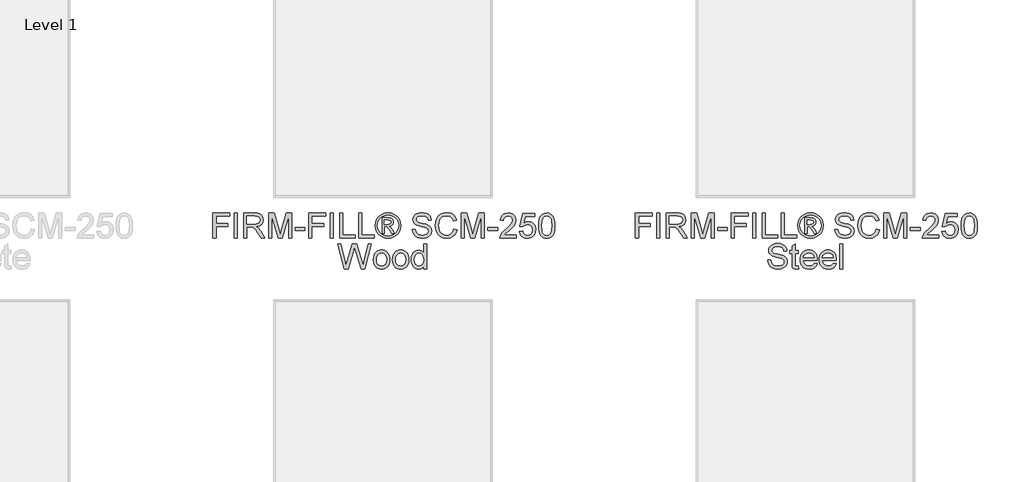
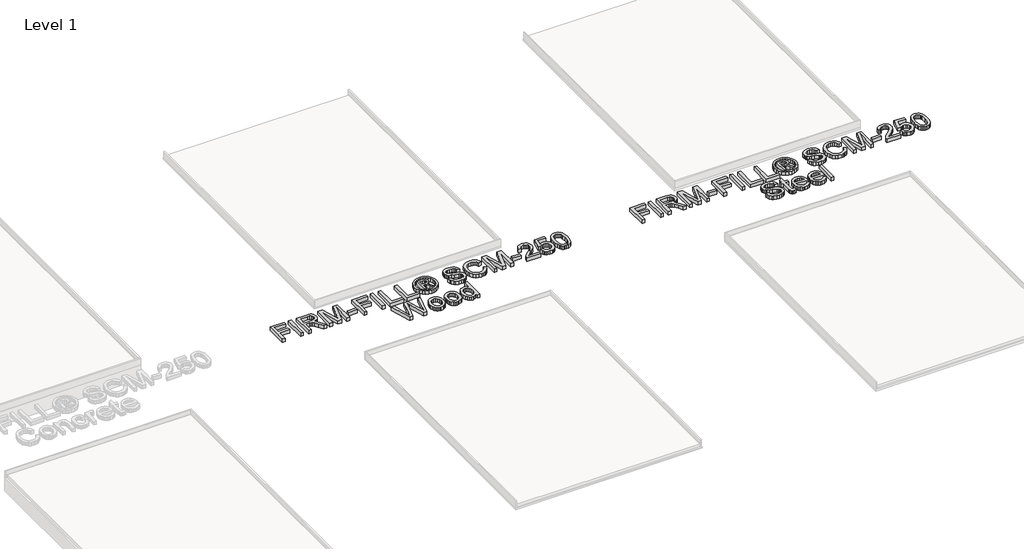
# One storey, part 9 of 10: 2 proxies.
"""IFC4 building model written with IfcOpenShell, lengths in millimetres."""

from ifc_helpers import new_model, si_unit, origin, origin_with_axes, place, context, project, spatial, polyline, outline, extrude, element, save

model = new_model("IFC4")

# Units and contexts
model_context = context("Model", 3, world=origin())
ifc_project = project(units=[si_unit("LENGTHUNIT", "METRE", prefix="MILLI")], contexts=[model_context])

# Site, building, storey
site = spatial("IfcSite", under=ifc_project)
building = spatial("IfcBuilding", under=site)
storey = spatial("IfcBuildingStorey", under=building, Name="Level 1", Elevation=0.0)

# Proxies
placement = place(None, origin())
element("IfcBuildingElementProxy", 1, Name="600mm Arial", ObjectType="600mm Arial", at=placement, inside=storey, context=model_context, shape_type="SweptSolid", body=[
    extrude(outline(polyline([(-312.4048462, -9445.9364307), (-312.4048462, -9145.8256615), (-110.7679231, -9145.8256615), (-110.7679231, -9183.3395076), (-274.891, -9183.3395076), (-274.891, -9272.4348922), (-134.2140769, -9272.4348922), (-134.2140769, -9309.9487384), (-274.891, -9309.9487384), (-274.891, -9445.9364307), (-312.4048462, -9445.9364307)])), origin_with_axes(), (0.0, 0.0, 1.0), 50.8),
    extrude(outline(polyline([(-54.4971539, -9445.9364307), (-54.4971539, -9145.8256615), (-16.9833077, -9145.8256615), (-16.9833077, -9445.9364307), (-54.4971539, -9445.9364307)])), origin_with_axes(), (0.0, 0.0, 1.0), 50.8),
    extrude(outline(polyline([(58.0443846, -9445.9364307), (58.0443846, -9145.8256615), (187.3645769, -9145.8256615), (222.1216682, -9147.849724), (247.4087115, -9153.9219115), (265.890875, -9165.1321038), (280.2333269, -9182.5701807), (289.437774, -9204.1937624), (292.5059231, -9227.9604692), (287.4228702, -9257.5246038), (272.1737115, -9282.0331615), (260.6223594, -9292.0206735), (246.3005144, -9300.0024403), (209.3453461, -9309.9487384), (230.6666923, -9325.9946999), (261.0734231, -9364.6075846), (311.1163077, -9445.9364307), (267.5211154, -9445.9364307), (228.4686154, -9383.7308538), (200.2599615, -9342.5535461), (180.4406346, -9323.1005653), (162.5995769, -9315.9568153), (140.8386154, -9314.6379692), (95.5582307, -9314.6379692), (95.5582307, -9445.9364307), (58.0443846, -9445.9364307)]), holes=[polyline([(95.5582307, -9277.124123), (179.5247692, -9277.124123), (203.6395048, -9275.7961182), (222.3506346, -9271.8121038), (236.4366442, -9264.9064788), (246.6760192, -9254.8136422), (252.9130625, -9242.6051567), (254.9920769, -9229.3525846), (251.0263798, -9211.0535942), (239.1292884, -9196.3081615), (218.6596971, -9186.5816711), (188.9765, -9183.3395076), (95.5582307, -9183.3395076), (95.5582307, -9277.124123)])]), origin_with_axes(), (0.0, 0.0, 1.0), 50.8),
    extrude(outline(polyline([(358.1551538, -9445.9364307), (358.1551538, -9145.8256615), (422.7053461, -9145.8256615), (484.1049615, -9357.3539307), (496.4874615, -9401.5352769), (509.8957307, -9353.6904692), (570.2695769, -9145.8256615), (634.8197692, -9145.8256615), (634.8197692, -9445.9364307), (597.3059231, -9445.9364307), (597.3059231, -9183.3395076), (521.9118846, -9445.9364307), (471.0630384, -9445.9364307), (395.669, -9183.3395076), (395.669, -9445.9364307), (358.1551538, -9445.9364307)])), origin_with_axes(), (0.0, 0.0, 1.0), 50.8),
    extrude(outline(polyline([(677.0228461, -9356.8410461), (677.0228461, -9319.3271999), (794.2536154, -9319.3271999), (794.2536154, -9356.8410461), (677.0228461, -9356.8410461)])), origin_with_axes(), (0.0, 0.0, 1.0), 50.8),
    extrude(outline(polyline([(841.1459231, -9445.9364307), (841.1459231, -9145.8256615), (1042.7828461, -9145.8256615), (1042.7828461, -9183.3395076), (878.6597692, -9183.3395076), (878.6597692, -9272.4348922), (1019.3366923, -9272.4348922), (1019.3366923, -9309.9487384), (878.6597692, -9309.9487384), (878.6597692, -9445.9364307), (841.1459231, -9445.9364307)])), origin_with_axes(), (0.0, 0.0, 1.0), 50.8),
    extrude(outline(polyline([(1099.0536154, -9445.9364307), (1099.0536154, -9145.8256615), (1136.5674615, -9145.8256615), (1136.5674615, -9445.9364307), (1099.0536154, -9445.9364307)])), origin_with_axes(), (0.0, 0.0, 1.0), 50.8),
    extrude(outline(polyline([(1211.5951538, -9445.9364307), (1211.5951538, -9145.8256615), (1249.109, -9145.8256615), (1249.109, -9408.4225846), (1399.1643846, -9408.4225846), (1399.1643846, -9445.9364307), (1211.5951538, -9445.9364307)])), origin_with_axes(), (0.0, 0.0, 1.0), 50.8),
    extrude(outline(polyline([(1441.3674615, -9445.9364307), (1441.3674615, -9145.8256615), (1478.8813077, -9145.8256615), (1478.8813077, -9408.4225846), (1628.9366923, -9408.4225846), (1628.9366923, -9445.9364307), (1441.3674615, -9445.9364307)])), origin_with_axes(), (0.0, 0.0, 1.0), 50.8),
    extrude(outline(polyline([(1722.7213077, -9389.6656615), (1722.7213077, -9202.0964307), (1783.3149615, -9202.0964307), (1810.0948654, -9203.3878009), (1828.3022692, -9207.2619115), (1840.8038317, -9214.3507096), (1850.4662115, -9225.2861422), (1856.6483029, -9238.5570317), (1858.709, -9252.6521999), (1855.1554423, -9271.7754692), (1844.4947692, -9288.2610461), (1827.9725577, -9300.0940269), (1806.8343846, -9305.2595076), (1821.4882307, -9315.224123), (1847.0591923, -9352.6646999), (1868.0874615, -9389.6656615), (1836.4351538, -9389.6656615), (1819.9495769, -9359.9183538), (1792.3270769, -9316.8360461), (1782.2342404, -9311.414123), (1768.3680384, -9309.9487384), (1750.8566923, -9309.9487384), (1750.8566923, -9389.6656615), (1722.7213077, -9389.6656615)]), holes=[polyline([(1750.8566923, -9281.8133538), (1786.4655384, -9281.8133538), (1807.9151057, -9280.0274163), (1821.2684231, -9274.6696038), (1828.2473173, -9266.3627047), (1830.5736154, -9255.7295076), (1826.1041923, -9242.1014307), (1813.6850577, -9233.1625846), (1784.1941923, -9230.2318153), (1750.8566923, -9230.2318153), (1750.8566923, -9281.8133538)])]), origin_with_axes(), (0.0, 0.0, 1.0), 50.8),
    extrude(outline(polyline([(1793.1330384, -9141.1364307), (1831.6543365, -9146.1370557), (1869.2597692, -9161.1389307), (1902.2950336, -9185.445998), (1927.1058269, -9218.3621999), (1942.6297452, -9256.3706134), (1947.8043846, -9295.9543153), (1942.7030144, -9335.1899884), (1927.3989038, -9372.8870076), (1902.8903461, -9405.6841471), (1870.1756346, -9430.2201807), (1832.5060913, -9445.5242913), (1793.1330384, -9450.6256615), (1753.8149375, -9445.5242913), (1716.1637115, -9430.2201807), (1683.421524, -9405.6841471), (1658.8305384, -9372.8870076), (1643.444, -9335.1899884), (1638.3151538, -9295.9543153), (1643.5172692, -9256.3706134), (1659.1236154, -9218.3621999), (1684.0168365, -9185.445998), (1717.0795769, -9161.1389307), (1754.6666923, -9146.1370557), (1793.1330384, -9141.1364307)]), holes=[polyline([(1793.1330384, -9169.2718153), (1761.6089519, -9173.3657336), (1730.9274615, -9185.6474884), (1703.9552259, -9205.5492432), (1683.5589038, -9232.5031615), (1670.7276298, -9263.6059499), (1666.4505384, -9295.9543153), (1670.6452019, -9328.0920317), (1683.2291923, -9358.8559499), (1703.3599134, -9385.6083778), (1730.1947692, -9405.711623), (1761.0227981, -9418.2956134), (1793.1330384, -9422.4902769), (1825.2890721, -9418.2956134), (1856.1079423, -9405.711623), (1882.8970048, -9385.6083778), (1902.9636154, -9358.8559499), (1915.4926538, -9328.0920317), (1919.669, -9295.9543153), (1915.4193846, -9263.6059499), (1902.6705384, -9232.5031615), (1882.3291682, -9205.5492432), (1855.3019807, -9185.6474884), (1824.5746971, -9173.3657336), (1793.1330384, -9169.2718153)])]), origin_with_axes(), (0.0, 0.0, 1.0), 50.8),
    extrude(outline(polyline([(2083.7920769, -9342.7733538), (2121.3059231, -9342.7733538), (2125.6104904, -9363.590974), (2133.3953461, -9380.3238346), (2145.5397211, -9393.6038826), (2162.9228461, -9404.0630653), (2184.1709231, -9410.8496278), (2207.9101538, -9413.1118153), (2228.8102019, -9411.3991471), (2247.1091923, -9406.2611422), (2261.9370529, -9398.1282576), (2272.4237115, -9387.4309499), (2278.6607548, -9375.1491951), (2280.7397692, -9362.2629692), (2279.1827981, -9349.7064547), (2274.5118846, -9338.8534499), (2265.0235192, -9329.5940509), (2249.0141923, -9321.8183538), (2194.3919807, -9307.4942192), (2158.5358509, -9298.0150124), (2135.5934231, -9288.9937384), (2116.9189279, -9276.3731134), (2103.6846731, -9261.0781615), (2095.7990721, -9243.4385942), (2093.1705384, -9223.784123), (2096.4218606, -9201.8125124), (2106.1758269, -9181.3246038), (2122.1759952, -9163.9597961), (2144.1659231, -9151.3574884), (2170.5611634, -9143.6916951), (2199.7772692, -9141.1364307), (2231.4295769, -9143.8107576), (2259.1253461, -9151.8337384), (2281.8754423, -9165.0405172), (2298.6907307, -9183.2662384), (2309.3330865, -9205.3752288), (2313.5643846, -9230.2318153), (2276.0505384, -9230.2318153), (2269.1632307, -9207.8480653), (2254.8024615, -9191.6921999), (2232.3637596, -9181.9107576), (2201.2426538, -9178.6502769), (2169.3888557, -9181.874123), (2147.5363077, -9191.5456615), (2134.8973654, -9205.7782096), (2130.6843846, -9222.6850846), (2133.6701057, -9237.1008057), (2142.6272692, -9248.6956615), (2163.8020769, -9259.0632576), (2203.8803461, -9269.6506615), (2245.2408269, -9279.7068634), (2270.2622692, -9288.4808538), (2291.6477259, -9302.0906134), (2306.5671731, -9318.8875846), (2315.3320048, -9338.6885942), (2318.2536154, -9361.3104692), (2314.8923894, -9384.4360701), (2304.8087115, -9406.187873), (2288.4147211, -9424.9081615), (2266.1225577, -9438.9392192), (2239.3151779, -9447.7040509), (2209.3755384, -9450.6256615), (2172.6218606, -9447.4750846), (2142.3708269, -9438.0233538), (2118.2744086, -9422.2338346), (2099.9845769, -9400.0698922), (2088.2431827, -9373.0701807), (2083.7920769, -9342.7733538)])), origin_with_axes(), (0.0, 0.0, 1.0), 50.8),
    extrude(outline(polyline([(2585.5397692, -9339.2564307), (2623.0536154, -9348.9279692), (2615.6305264, -9372.2573502), (2605.7437596, -9392.642224), (2593.3933149, -9410.0825906), (2578.5791923, -9424.5784499), (2561.6356827, -9435.974105), (2542.8970769, -9444.1138586), (2522.363375, -9448.9977108), (2500.0345769, -9450.6256615), (2456.5218125, -9445.6983057), (2421.9662115, -9430.9162384), (2395.4793846, -9406.7923442), (2376.1729423, -9373.8395076), (2364.3857548, -9335.0984019), (2360.4566923, -9293.6096999), (2364.8986394, -9249.8496519), (2378.2244807, -9212.0610461), (2399.7381586, -9181.4436663), (2428.7436154, -9159.1972961), (2463.1435192, -9145.6516471), (2500.8405384, -9141.1364307), (2541.9720529, -9146.9796519), (2559.8657728, -9154.2836783), (2575.9781346, -9164.5093153), (2590.0435372, -9177.3863826), (2601.7963798, -9192.6446999), (2618.3643846, -9230.3050846), (2580.8505384, -9239.2439307), (2567.84525, -9211.8870317), (2550.0774615, -9193.1209499), (2527.3273654, -9182.2679451), (2499.3751538, -9178.6502769), (2467.1550096, -9182.6617672), (2440.6865, -9194.6962384), (2420.6015721, -9213.4897961), (2407.5321731, -9237.7785461), (2400.3609471, -9265.2361903), (2397.9705384, -9293.5364307), (2400.8005625, -9328.1927769), (2409.2906346, -9358.1598922), (2423.7613077, -9382.2929451), (2444.5331346, -9399.4471038), (2469.4355144, -9409.6956374), (2496.2978461, -9413.1118153), (2527.6112836, -9408.4592192), (2553.7042884, -9394.5014307), (2573.4045529, -9371.3849884), (2585.5397692, -9339.2564307)])), origin_with_axes(), (0.0, 0.0, 1.0), 50.8),
    extrude(outline(polyline([(2674.6351538, -9445.9364307), (2674.6351538, -9145.8256615), (2739.1853461, -9145.8256615), (2800.5849615, -9357.3539307), (2812.9674615, -9401.5352769), (2826.3757307, -9353.6904692), (2886.7495769, -9145.8256615), (2951.2997692, -9145.8256615), (2951.2997692, -9445.9364307), (2913.7859231, -9445.9364307), (2913.7859231, -9183.3395076), (2838.3918846, -9445.9364307), (2787.5430384, -9445.9364307), (2712.149, -9183.3395076), (2712.149, -9445.9364307), (2674.6351538, -9445.9364307)])), origin_with_axes(), (0.0, 0.0, 1.0), 50.8),
    extrude(outline(polyline([(2993.5028461, -9356.8410461), (2993.5028461, -9319.3271999), (3110.7336154, -9319.3271999), (3110.7336154, -9356.8410461), (2993.5028461, -9356.8410461)])), origin_with_axes(), (0.0, 0.0, 1.0), 50.8),
    extrude(outline(polyline([(3335.8166923, -9408.4225846), (3335.8166923, -9445.9364307), (3138.869, -9445.9364307), (3142.8988077, -9420.0723922), (3152.1490481, -9399.8592432), (3165.6855384, -9380.2505653), (3185.2667404, -9359.7260221), (3212.6511154, -9336.7652769), (3253.1323654, -9300.8084019), (3277.4211154, -9274.266623), (3289.5654904, -9252.7254692), (3293.6136154, -9231.7704692), (3289.7944567, -9212.9860701), (3278.3369807, -9197.3705653), (3260.7248894, -9186.8472721), (3238.4418846, -9183.3395076), (3215.041524, -9186.7648442), (3196.8615961, -9197.0408538), (3185.1293606, -9213.3615749), (3181.0720769, -9234.9210461), (3143.5582307, -9230.2318153), (3152.652774, -9193.9452288), (3161.1634531, -9179.4699764), (3172.3164038, -9167.4400846), (3185.8551839, -9157.9837745), (3201.5233509, -9151.2292672), (3239.2478461, -9145.8256615), (3259.353381, -9147.3276807), (3277.2471009, -9151.8337384), (3292.929006, -9159.3438346), (3306.3990961, -9169.8579692), (3317.217756, -9182.5976567), (3324.9453702, -9196.7844115), (3329.5819387, -9212.4182336), (3331.1274615, -9229.499123), (3329.4605865, -9247.4409259), (3324.4599615, -9265.0713346), (3315.5852259, -9283.0039788), (3302.2960192, -9301.8524884), (3281.1120529, -9324.3553009), (3248.5530384, -9353.2508538), (3205.3974615, -9389.3359499), (3188.4722692, -9408.4225846), (3335.8166923, -9408.4225846)])), origin_with_axes(), (0.0, 0.0, 1.0), 50.8),
    extrude(outline(polyline([(3373.3305384, -9366.2195076), (3410.8443846, -9361.5302769), (3417.7316923, -9384.0514067), (3429.7478461, -9400.1797961), (3446.8378942, -9409.8788105), (3468.9468846, -9413.1118153), (3495.8366923, -9408.6149163), (3515.9857307, -9395.1242192), (3528.5697211, -9374.1966951), (3532.7643846, -9347.3893153), (3528.8353221, -9322.1480653), (3517.0481346, -9302.841623), (3497.3112356, -9290.5873442), (3469.5330384, -9286.5025846), (3451.3347932, -9288.1328249), (3436.5985192, -9293.0235461), (3415.5336154, -9309.9487384), (3378.0197692, -9305.2595076), (3410.8443846, -9150.5148922), (3556.2105384, -9150.5148922), (3556.2105384, -9188.0287384), (3441.1778461, -9188.0287384), (3425.1318846, -9270.6764307), (3451.9301057, -9254.4106615), (3480.0105384, -9248.9887384), (3498.2797632, -9250.6693514), (3515.0607067, -9255.7111903), (3530.353369, -9264.1142552), (3544.15775, -9275.8785461), (3555.5854603, -9290.2851086), (3563.7481106, -9306.6149884), (3568.6457007, -9324.8681855), (3570.2782307, -9345.0446999), (3564.398375, -9382.5585461), (3557.0485553, -9399.282248), (3546.7588077, -9414.6504692), (3531.1707788, -9430.3896158), (3512.9816923, -9441.6318634), (3492.1915481, -9448.377212), (3468.8003461, -9450.6256615), (3431.9550817, -9444.8465509), (3416.3418666, -9437.6226627), (3402.6015961, -9427.5092192), (3391.1693065, -9415.0099463), (3382.4800336, -9400.6285701), (3373.3305384, -9366.2195076)])), origin_with_axes(), (0.0, 0.0, 1.0), 50.8),
    extrude(outline(polyline([(3603.1028461, -9298.2989307), (3605.8596009, -9250.2617913), (3614.1298654, -9211.9511422), (3627.8312115, -9182.7808297), (3646.8812115, -9162.1646999), (3671.4172452, -9149.9104211), (3701.5766923, -9145.8256615), (3724.6931346, -9148.2435461), (3745.3916923, -9155.4971999), (3762.7015481, -9167.3027047), (3775.6518846, -9183.3761422), (3785.4333269, -9203.5801326), (3793.2365, -9227.7772961), (3798.3470288, -9258.5045797), (3800.0505384, -9298.2989307), (3797.3212596, -9346.0613105), (3789.1334231, -9384.280373), (3775.5145048, -9413.4781615), (3756.4919807, -9434.1767192), (3731.9009952, -9446.5134259), (3701.5766923, -9450.6256615), (3680.9147692, -9448.839724), (3662.5974615, -9443.4819115), (3646.6247692, -9434.552224), (3632.9966923, -9422.0506615), (3619.9181346, -9399.4516831), (3610.5763077, -9371.2934019), (3604.9712115, -9337.5758177), (3603.1028461, -9298.2989307)]), holes=[polyline([(3640.6166923, -9298.2256615), (3645.0128461, -9357.2348682), (3650.5080384, -9377.4182516), (3658.2013077, -9391.3874884), (3677.8374615, -9407.6807336), (3701.5766923, -9413.1118153), (3725.3159231, -9407.6624163), (3744.9520769, -9391.3142192), (3752.6453461, -9377.3220858), (3758.1405384, -9357.1432817), (3762.5366923, -9298.2256615), (3758.2870769, -9240.5444596), (3752.9750577, -9220.4274764), (3745.5382307, -9206.1262384), (3725.9387115, -9189.0361903), (3701.1370769, -9183.3395076), (3677.6542884, -9188.3584499), (3658.7874615, -9203.4152769), (3650.83775, -9218.9849884), (3645.1593846, -9239.976623), (3640.6166923, -9298.2256615)])]), origin_with_axes(), (0.0, 0.0, 1.0), 50.8),
    extrude(outline(polyline([(1267.6461154, -9816.3856615), (1185.8043846, -9516.2748922), (1224.4905384, -9516.2748922), (1271.969, -9713.5156615), (1286.6228461, -9774.4023922), (1302.3024615, -9720.5495076), (1361.7970769, -9516.2748922), (1417.5549615, -9516.2748922), (1460.7838077, -9664.3520076), (1479.3026057, -9719.3039307), (1492.949, -9774.4023922), (1507.1632307, -9715.274123), (1555.0813077, -9516.2748922), (1593.7674615, -9516.2748922), (1511.8524615, -9816.3856615), (1471.7741923, -9816.3856615), (1399.8238077, -9584.8548922), (1389.7859231, -9552.5431615), (1378.5024615, -9591.449123), (1312.9265, -9816.3856615), (1267.6461154, -9816.3856615)])), origin_with_axes(), (0.0, 0.0, 1.0), 50.8),
    extrude(outline(polyline([(1617.2136154, -9706.1887384), (1619.2422572, -9677.6457937), (1625.3281827, -9653.0502288), (1635.4713918, -9632.4020437), (1649.6718846, -9615.7012384), (1663.9685432, -9605.0268273), (1679.7489038, -9597.402248), (1697.0129663, -9592.8275004), (1715.7607307, -9591.3025846), (1736.4569988, -9593.1595016), (1755.1704182, -9598.7302528), (1771.9009892, -9608.0148382), (1786.6487115, -9621.0132576), (1798.6854723, -9637.2858959), (1807.2831586, -9656.3931374), (1812.4417704, -9678.3349824), (1814.1613077, -9703.1114307), (1811.1206346, -9741.0099403), (1801.9986154, -9769.8596999), (1787.0608509, -9791.4649644), (1766.5729423, -9807.6299884), (1742.238399, -9817.7136663), (1715.7607307, -9821.0748922), (1694.7622271, -9819.2248442), (1675.8747932, -9813.6746999), (1659.0984291, -9804.4244596), (1644.4331346, -9791.474123), (1632.5245949, -9775.043498), (1624.0184952, -9755.3523922), (1618.9148353, -9732.4008057), (1617.2136154, -9706.1887384)]), holes=[polyline([(1654.7274615, -9706.1154692), (1659.0686634, -9740.066599), (1672.0922692, -9764.2546038), (1691.6917884, -9778.7344355), (1715.7607307, -9783.5610461), (1739.7197692, -9778.7069596), (1759.2826538, -9764.1446999), (1772.3062596, -9739.6361422), (1776.6474615, -9704.9431615), (1772.2787836, -9671.9811663), (1759.17275, -9648.122873), (1739.5823894, -9633.6430413), (1715.7607307, -9628.8164307), (1691.6917884, -9633.624724), (1672.0922692, -9648.0496038), (1659.0686634, -9672.1826567), (1654.7274615, -9706.1154692)])]), origin_with_axes(), (0.0, 0.0, 1.0), 50.8),
    extrude(outline(polyline([(1846.9859231, -9706.1887384), (1849.0145649, -9677.6457937), (1855.1004904, -9653.0502288), (1865.2436995, -9632.4020437), (1879.4441923, -9615.7012384), (1893.7408509, -9605.0268273), (1909.5212115, -9597.402248), (1926.785274, -9592.8275004), (1945.5330384, -9591.3025846), (1966.2293065, -9593.1595016), (1984.9427259, -9598.7302528), (2001.6732969, -9608.0148382), (2016.4210192, -9621.0132576), (2028.45778, -9637.2858959), (2037.0554663, -9656.3931374), (2042.2140781, -9678.3349824), (2043.9336154, -9703.1114307), (2040.8929423, -9741.0099403), (2031.7709231, -9769.8596999), (2016.8331586, -9791.4649644), (1996.34525, -9807.6299884), (1972.0107067, -9817.7136663), (1945.5330384, -9821.0748922), (1924.5345348, -9819.2248442), (1905.6471009, -9813.6746999), (1888.8707368, -9804.4244596), (1874.2054423, -9791.474123), (1862.2969026, -9775.043498), (1853.7908029, -9755.3523922), (1848.687143, -9732.4008057), (1846.9859231, -9706.1887384)]), holes=[polyline([(1884.4997692, -9706.1154692), (1888.8409711, -9740.066599), (1901.8645769, -9764.2546038), (1921.4640961, -9778.7344355), (1945.5330384, -9783.5610461), (1969.4920769, -9778.7069596), (1989.0549615, -9764.1446999), (2002.0785673, -9739.6361422), (2006.4197692, -9704.9431615), (2002.0510913, -9671.9811663), (1988.9450577, -9648.122873), (1969.3546971, -9633.6430413), (1945.5330384, -9628.8164307), (1921.4640961, -9633.624724), (1901.8645769, -9648.0496038), (1888.8409711, -9672.1826567), (1884.4997692, -9706.1154692)])]), origin_with_axes(), (0.0, 0.0, 1.0), 50.8),
    extrude(outline(polyline([(2222.1243846, -9816.3856615), (2222.1243846, -9780.996623), (2210.9004543, -9798.5308658), (2197.3044327, -9811.0553249), (2181.3363197, -9818.5700004), (2162.9961154, -9821.0748922), (2138.744, -9817.4480653), (2116.5434231, -9806.5675846), (2097.7498654, -9789.1936182), (2083.7188077, -9766.0863346), (2074.9814519, -9738.1799163), (2072.069, -9706.4085461), (2074.7524856, -9675.030998), (2082.8029423, -9646.694123), (2096.2112115, -9623.0098442), (2114.9681346, -9605.5900846), (2137.6541202, -9594.8744596), (2162.8495769, -9591.3025846), (2181.2035192, -9593.857849), (2197.4326538, -9601.5236422), (2211.1889519, -9613.2741951), (2222.1243846, -9628.0837384), (2222.1243846, -9516.2748922), (2259.6382307, -9516.2748922), (2259.6382307, -9816.3856615), (2222.1243846, -9816.3856615)]), holes=[polyline([(2109.5828461, -9706.2620076), (2113.8141442, -9740.1948201), (2126.5080384, -9764.327873), (2144.9535673, -9778.7527528), (2166.4397692, -9783.5610461), (2187.9168125, -9778.9725605), (2205.89525, -9765.2071038), (2218.0671009, -9742.0082336), (2222.1243846, -9709.1195076), (2217.9938317, -9673.1626326), (2205.6021731, -9648.2327769), (2187.1658029, -9633.6705172), (2164.9011154, -9628.8164307), (2143.1951057, -9633.4781855), (2125.409, -9647.4634499), (2113.5393846, -9671.486599), (2109.5828461, -9706.2620076)])]), origin_with_axes(), (0.0, 0.0, 1.0), 50.8),
])
element("IfcBuildingElementProxy", 2, Name="600mm Arial", ObjectType="600mm Arial", at=placement, inside=storey, context=model_context, shape_type="SweptSolid", body=[
    extrude(outline(polyline([(4767.5951538, -9445.9364307), (4767.5951538, -9145.8256615), (4969.2320769, -9145.8256615), (4969.2320769, -9183.3395076), (4805.109, -9183.3395076), (4805.109, -9272.4348922), (4945.7859231, -9272.4348922), (4945.7859231, -9309.9487384), (4805.109, -9309.9487384), (4805.109, -9445.9364307), (4767.5951538, -9445.9364307)])), origin_with_axes(), (0.0, 0.0, 1.0), 50.8),
    extrude(outline(polyline([(5025.5028461, -9445.9364307), (5025.5028461, -9145.8256615), (5063.0166923, -9145.8256615), (5063.0166923, -9445.9364307), (5025.5028461, -9445.9364307)])), origin_with_axes(), (0.0, 0.0, 1.0), 50.8),
    extrude(outline(polyline([(5138.0443846, -9445.9364307), (5138.0443846, -9145.8256615), (5267.3645769, -9145.8256615), (5302.1216682, -9147.849724), (5327.4087115, -9153.9219115), (5345.890875, -9165.1321038), (5360.2333269, -9182.5701807), (5369.437774, -9204.1937624), (5372.5059231, -9227.9604692), (5367.4228702, -9257.5246038), (5352.1737115, -9282.0331615), (5340.6223594, -9292.0206735), (5326.3005144, -9300.0024403), (5289.3453461, -9309.9487384), (5310.6666923, -9325.9946999), (5341.0734231, -9364.6075846), (5391.1163077, -9445.9364307), (5347.5211154, -9445.9364307), (5308.4686154, -9383.7308538), (5280.2599615, -9342.5535461), (5260.4406346, -9323.1005653), (5242.5995769, -9315.9568153), (5220.8386154, -9314.6379692), (5175.5582307, -9314.6379692), (5175.5582307, -9445.9364307), (5138.0443846, -9445.9364307)]), holes=[polyline([(5175.5582307, -9277.124123), (5259.5247692, -9277.124123), (5283.6395048, -9275.7961182), (5302.3506346, -9271.8121038), (5316.4366442, -9264.9064788), (5326.6760192, -9254.8136422), (5332.9130625, -9242.6051567), (5334.9920769, -9229.3525846), (5331.0263798, -9211.0535942), (5319.1292884, -9196.3081615), (5298.6596971, -9186.5816711), (5268.9765, -9183.3395076), (5175.5582307, -9183.3395076), (5175.5582307, -9277.124123)])]), origin_with_axes(), (0.0, 0.0, 1.0), 50.8),
    extrude(outline(polyline([(5438.1551538, -9445.9364307), (5438.1551538, -9145.8256615), (5502.7053461, -9145.8256615), (5564.1049615, -9357.3539307), (5576.4874615, -9401.5352769), (5589.8957307, -9353.6904692), (5650.2695769, -9145.8256615), (5714.8197692, -9145.8256615), (5714.8197692, -9445.9364307), (5677.3059231, -9445.9364307), (5677.3059231, -9183.3395076), (5601.9118846, -9445.9364307), (5551.0630384, -9445.9364307), (5475.669, -9183.3395076), (5475.669, -9445.9364307), (5438.1551538, -9445.9364307)])), origin_with_axes(), (0.0, 0.0, 1.0), 50.8),
    extrude(outline(polyline([(5757.0228461, -9356.8410461), (5757.0228461, -9319.3271999), (5874.2536154, -9319.3271999), (5874.2536154, -9356.8410461), (5757.0228461, -9356.8410461)])), origin_with_axes(), (0.0, 0.0, 1.0), 50.8),
    extrude(outline(polyline([(5921.1459231, -9445.9364307), (5921.1459231, -9145.8256615), (6122.7828461, -9145.8256615), (6122.7828461, -9183.3395076), (5958.6597692, -9183.3395076), (5958.6597692, -9272.4348922), (6099.3366923, -9272.4348922), (6099.3366923, -9309.9487384), (5958.6597692, -9309.9487384), (5958.6597692, -9445.9364307), (5921.1459231, -9445.9364307)])), origin_with_axes(), (0.0, 0.0, 1.0), 50.8),
    extrude(outline(polyline([(6179.0536154, -9445.9364307), (6179.0536154, -9145.8256615), (6216.5674615, -9145.8256615), (6216.5674615, -9445.9364307), (6179.0536154, -9445.9364307)])), origin_with_axes(), (0.0, 0.0, 1.0), 50.8),
    extrude(outline(polyline([(6291.5951538, -9445.9364307), (6291.5951538, -9145.8256615), (6329.109, -9145.8256615), (6329.109, -9408.4225846), (6479.1643846, -9408.4225846), (6479.1643846, -9445.9364307), (6291.5951538, -9445.9364307)])), origin_with_axes(), (0.0, 0.0, 1.0), 50.8),
    extrude(outline(polyline([(6521.3674615, -9445.9364307), (6521.3674615, -9145.8256615), (6558.8813077, -9145.8256615), (6558.8813077, -9408.4225846), (6708.9366923, -9408.4225846), (6708.9366923, -9445.9364307), (6521.3674615, -9445.9364307)])), origin_with_axes(), (0.0, 0.0, 1.0), 50.8),
    extrude(outline(polyline([(6802.7213077, -9389.6656615), (6802.7213077, -9202.0964307), (6863.3149615, -9202.0964307), (6890.0948654, -9203.3878009), (6908.3022692, -9207.2619115), (6920.8038317, -9214.3507096), (6930.4662115, -9225.2861422), (6936.6483029, -9238.5570317), (6938.709, -9252.6521999), (6935.1554423, -9271.7754692), (6924.4947692, -9288.2610461), (6907.9725577, -9300.0940269), (6886.8343846, -9305.2595076), (6901.4882307, -9315.224123), (6927.0591923, -9352.6646999), (6948.0874615, -9389.6656615), (6916.4351538, -9389.6656615), (6899.9495769, -9359.9183538), (6872.3270769, -9316.8360461), (6862.2342404, -9311.414123), (6848.3680384, -9309.9487384), (6830.8566923, -9309.9487384), (6830.8566923, -9389.6656615), (6802.7213077, -9389.6656615)]), holes=[polyline([(6830.8566923, -9281.8133538), (6866.4655384, -9281.8133538), (6887.9151057, -9280.0274163), (6901.2684231, -9274.6696038), (6908.2473173, -9266.3627047), (6910.5736154, -9255.7295076), (6906.1041923, -9242.1014307), (6893.6850577, -9233.1625846), (6864.1941923, -9230.2318153), (6830.8566923, -9230.2318153), (6830.8566923, -9281.8133538)])]), origin_with_axes(), (0.0, 0.0, 1.0), 50.8),
    extrude(outline(polyline([(6873.1330384, -9141.1364307), (6911.6543365, -9146.1370557), (6949.2597692, -9161.1389307), (6982.2950336, -9185.445998), (7007.1058269, -9218.3621999), (7022.6297452, -9256.3706134), (7027.8043846, -9295.9543153), (7022.7030144, -9335.1899884), (7007.3989038, -9372.8870076), (6982.8903461, -9405.6841471), (6950.1756346, -9430.2201807), (6912.5060913, -9445.5242913), (6873.1330384, -9450.6256615), (6833.8149375, -9445.5242913), (6796.1637115, -9430.2201807), (6763.421524, -9405.6841471), (6738.8305384, -9372.8870076), (6723.444, -9335.1899884), (6718.3151538, -9295.9543153), (6723.5172692, -9256.3706134), (6739.1236154, -9218.3621999), (6764.0168365, -9185.445998), (6797.0795769, -9161.1389307), (6834.6666923, -9146.1370557), (6873.1330384, -9141.1364307)]), holes=[polyline([(6873.1330384, -9169.2718153), (6841.6089519, -9173.3657336), (6810.9274615, -9185.6474884), (6783.9552259, -9205.5492432), (6763.5589038, -9232.5031615), (6750.7276298, -9263.6059499), (6746.4505384, -9295.9543153), (6750.6452019, -9328.0920317), (6763.2291923, -9358.8559499), (6783.3599134, -9385.6083778), (6810.1947692, -9405.711623), (6841.0227981, -9418.2956134), (6873.1330384, -9422.4902769), (6905.2890721, -9418.2956134), (6936.1079423, -9405.711623), (6962.8970048, -9385.6083778), (6982.9636154, -9358.8559499), (6995.4926538, -9328.0920317), (6999.669, -9295.9543153), (6995.4193846, -9263.6059499), (6982.6705384, -9232.5031615), (6962.3291682, -9205.5492432), (6935.3019807, -9185.6474884), (6904.5746971, -9173.3657336), (6873.1330384, -9169.2718153)])]), origin_with_axes(), (0.0, 0.0, 1.0), 50.8),
    extrude(outline(polyline([(7163.7920769, -9342.7733538), (7201.3059231, -9342.7733538), (7205.6104904, -9363.590974), (7213.3953461, -9380.3238346), (7225.5397211, -9393.6038826), (7242.9228461, -9404.0630653), (7264.1709231, -9410.8496278), (7287.9101538, -9413.1118153), (7308.8102019, -9411.3991471), (7327.1091923, -9406.2611422), (7341.9370529, -9398.1282576), (7352.4237115, -9387.4309499), (7358.6607548, -9375.1491951), (7360.7397692, -9362.2629692), (7359.1827981, -9349.7064547), (7354.5118846, -9338.8534499), (7345.0235192, -9329.5940509), (7329.0141923, -9321.8183538), (7274.3919807, -9307.4942192), (7238.5358509, -9298.0150124), (7215.5934231, -9288.9937384), (7196.9189279, -9276.3731134), (7183.6846731, -9261.0781615), (7175.7990721, -9243.4385942), (7173.1705384, -9223.784123), (7176.4218606, -9201.8125124), (7186.1758269, -9181.3246038), (7202.1759952, -9163.9597961), (7224.1659231, -9151.3574884), (7250.5611634, -9143.6916951), (7279.7772692, -9141.1364307), (7311.4295769, -9143.8107576), (7339.1253461, -9151.8337384), (7361.8754423, -9165.0405172), (7378.6907307, -9183.2662384), (7389.3330865, -9205.3752288), (7393.5643846, -9230.2318153), (7356.0505384, -9230.2318153), (7349.1632307, -9207.8480653), (7334.8024615, -9191.6921999), (7312.3637596, -9181.9107576), (7281.2426538, -9178.6502769), (7249.3888557, -9181.874123), (7227.5363077, -9191.5456615), (7214.8973654, -9205.7782096), (7210.6843846, -9222.6850846), (7213.6701057, -9237.1008057), (7222.6272692, -9248.6956615), (7243.8020769, -9259.0632576), (7283.8803461, -9269.6506615), (7325.2408269, -9279.7068634), (7350.2622692, -9288.4808538), (7371.6477259, -9302.0906134), (7386.5671731, -9318.8875846), (7395.3320048, -9338.6885942), (7398.2536154, -9361.3104692), (7394.8923894, -9384.4360701), (7384.8087115, -9406.187873), (7368.4147211, -9424.9081615), (7346.1225577, -9438.9392192), (7319.3151779, -9447.7040509), (7289.3755384, -9450.6256615), (7252.6218606, -9447.4750846), (7222.3708269, -9438.0233538), (7198.2744086, -9422.2338346), (7179.9845769, -9400.0698922), (7168.2431827, -9373.0701807), (7163.7920769, -9342.7733538)])), origin_with_axes(), (0.0, 0.0, 1.0), 50.8),
    extrude(outline(polyline([(7665.5397692, -9339.2564307), (7703.0536154, -9348.9279692), (7695.6305264, -9372.2573502), (7685.7437596, -9392.642224), (7673.3933149, -9410.0825906), (7658.5791923, -9424.5784499), (7641.6356827, -9435.974105), (7622.8970769, -9444.1138586), (7602.363375, -9448.9977108), (7580.0345769, -9450.6256615), (7536.5218125, -9445.6983057), (7501.9662115, -9430.9162384), (7475.4793846, -9406.7923442), (7456.1729423, -9373.8395076), (7444.3857548, -9335.0984019), (7440.4566923, -9293.6096999), (7444.8986394, -9249.8496519), (7458.2244807, -9212.0610461), (7479.7381586, -9181.4436663), (7508.7436154, -9159.1972961), (7543.1435192, -9145.6516471), (7580.8405384, -9141.1364307), (7621.9720529, -9146.9796519), (7639.8657728, -9154.2836783), (7655.9781346, -9164.5093153), (7670.0435372, -9177.3863826), (7681.7963798, -9192.6446999), (7698.3643846, -9230.3050846), (7660.8505384, -9239.2439307), (7647.84525, -9211.8870317), (7630.0774615, -9193.1209499), (7607.3273654, -9182.2679451), (7579.3751538, -9178.6502769), (7547.1550096, -9182.6617672), (7520.6865, -9194.6962384), (7500.6015721, -9213.4897961), (7487.5321731, -9237.7785461), (7480.3609471, -9265.2361903), (7477.9705384, -9293.5364307), (7480.8005625, -9328.1927769), (7489.2906346, -9358.1598922), (7503.7613077, -9382.2929451), (7524.5331346, -9399.4471038), (7549.4355144, -9409.6956374), (7576.2978461, -9413.1118153), (7607.6112836, -9408.4592192), (7633.7042884, -9394.5014307), (7653.4045529, -9371.3849884), (7665.5397692, -9339.2564307)])), origin_with_axes(), (0.0, 0.0, 1.0), 50.8),
    extrude(outline(polyline([(7754.6351538, -9445.9364307), (7754.6351538, -9145.8256615), (7819.1853461, -9145.8256615), (7880.5849615, -9357.3539307), (7892.9674615, -9401.5352769), (7906.3757307, -9353.6904692), (7966.7495769, -9145.8256615), (8031.2997692, -9145.8256615), (8031.2997692, -9445.9364307), (7993.7859231, -9445.9364307), (7993.7859231, -9183.3395076), (7918.3918846, -9445.9364307), (7867.5430384, -9445.9364307), (7792.149, -9183.3395076), (7792.149, -9445.9364307), (7754.6351538, -9445.9364307)])), origin_with_axes(), (0.0, 0.0, 1.0), 50.8),
    extrude(outline(polyline([(8073.5028461, -9356.8410461), (8073.5028461, -9319.3271999), (8190.7336154, -9319.3271999), (8190.7336154, -9356.8410461), (8073.5028461, -9356.8410461)])), origin_with_axes(), (0.0, 0.0, 1.0), 50.8),
    extrude(outline(polyline([(8415.8166923, -9408.4225846), (8415.8166923, -9445.9364307), (8218.869, -9445.9364307), (8222.8988077, -9420.0723922), (8232.1490481, -9399.8592432), (8245.6855384, -9380.2505653), (8265.2667404, -9359.7260221), (8292.6511154, -9336.7652769), (8333.1323654, -9300.8084019), (8357.4211154, -9274.266623), (8369.5654904, -9252.7254692), (8373.6136154, -9231.7704692), (8369.7944567, -9212.9860701), (8358.3369807, -9197.3705653), (8340.7248894, -9186.8472721), (8318.4418846, -9183.3395076), (8295.041524, -9186.7648442), (8276.8615961, -9197.0408538), (8265.1293606, -9213.3615749), (8261.0720769, -9234.9210461), (8223.5582307, -9230.2318153), (8232.652774, -9193.9452288), (8241.1634531, -9179.4699764), (8252.3164038, -9167.4400846), (8265.8551839, -9157.9837745), (8281.5233509, -9151.2292672), (8319.2478461, -9145.8256615), (8339.353381, -9147.3276807), (8357.2471009, -9151.8337384), (8372.929006, -9159.3438346), (8386.3990961, -9169.8579692), (8397.217756, -9182.5976567), (8404.9453702, -9196.7844115), (8409.5819387, -9212.4182336), (8411.1274615, -9229.499123), (8409.4605865, -9247.4409259), (8404.4599615, -9265.0713346), (8395.5852259, -9283.0039788), (8382.2960192, -9301.8524884), (8361.1120529, -9324.3553009), (8328.5530384, -9353.2508538), (8285.3974615, -9389.3359499), (8268.4722692, -9408.4225846), (8415.8166923, -9408.4225846)])), origin_with_axes(), (0.0, 0.0, 1.0), 50.8),
    extrude(outline(polyline([(8453.3305384, -9366.2195076), (8490.8443846, -9361.5302769), (8497.7316923, -9384.0514067), (8509.7478461, -9400.1797961), (8526.8378942, -9409.8788105), (8548.9468846, -9413.1118153), (8575.8366923, -9408.6149163), (8595.9857307, -9395.1242192), (8608.5697211, -9374.1966951), (8612.7643846, -9347.3893153), (8608.8353221, -9322.1480653), (8597.0481346, -9302.841623), (8577.3112356, -9290.5873442), (8549.5330384, -9286.5025846), (8531.3347932, -9288.1328249), (8516.5985192, -9293.0235461), (8495.5336154, -9309.9487384), (8458.0197692, -9305.2595076), (8490.8443846, -9150.5148922), (8636.2105384, -9150.5148922), (8636.2105384, -9188.0287384), (8521.1778461, -9188.0287384), (8505.1318846, -9270.6764307), (8531.9301057, -9254.4106615), (8560.0105384, -9248.9887384), (8578.2797632, -9250.6693514), (8595.0607067, -9255.7111903), (8610.353369, -9264.1142552), (8624.15775, -9275.8785461), (8635.5854603, -9290.2851086), (8643.7481106, -9306.6149884), (8648.6457007, -9324.8681855), (8650.2782307, -9345.0446999), (8644.398375, -9382.5585461), (8637.0485553, -9399.282248), (8626.7588077, -9414.6504692), (8611.1707788, -9430.3896158), (8592.9816923, -9441.6318634), (8572.1915481, -9448.377212), (8548.8003461, -9450.6256615), (8511.9550817, -9444.8465509), (8496.3418666, -9437.6226627), (8482.6015961, -9427.5092192), (8471.1693065, -9415.0099463), (8462.4800336, -9400.6285701), (8453.3305384, -9366.2195076)])), origin_with_axes(), (0.0, 0.0, 1.0), 50.8),
    extrude(outline(polyline([(8683.1028461, -9298.2989307), (8685.8596009, -9250.2617913), (8694.1298654, -9211.9511422), (8707.8312115, -9182.7808297), (8726.8812115, -9162.1646999), (8751.4172452, -9149.9104211), (8781.5766923, -9145.8256615), (8804.6931346, -9148.2435461), (8825.3916923, -9155.4971999), (8842.7015481, -9167.3027047), (8855.6518846, -9183.3761422), (8865.4333269, -9203.5801326), (8873.2365, -9227.7772961), (8878.3470288, -9258.5045797), (8880.0505384, -9298.2989307), (8877.3212596, -9346.0613105), (8869.1334231, -9384.280373), (8855.5145048, -9413.4781615), (8836.4919807, -9434.1767192), (8811.9009952, -9446.5134259), (8781.5766923, -9450.6256615), (8760.9147692, -9448.839724), (8742.5974615, -9443.4819115), (8726.6247692, -9434.552224), (8712.9966923, -9422.0506615), (8699.9181346, -9399.4516831), (8690.5763077, -9371.2934019), (8684.9712115, -9337.5758177), (8683.1028461, -9298.2989307)]), holes=[polyline([(8720.6166923, -9298.2256615), (8725.0128461, -9357.2348682), (8730.5080384, -9377.4182516), (8738.2013077, -9391.3874884), (8757.8374615, -9407.6807336), (8781.5766923, -9413.1118153), (8805.3159231, -9407.6624163), (8824.9520769, -9391.3142192), (8832.6453461, -9377.3220858), (8838.1405384, -9357.1432817), (8842.5366923, -9298.2256615), (8838.2870769, -9240.5444596), (8832.9750577, -9220.4274764), (8825.5382307, -9206.1262384), (8805.9387115, -9189.0361903), (8781.1370769, -9183.3395076), (8757.6542884, -9188.3584499), (8738.7874615, -9203.4152769), (8730.83775, -9218.9849884), (8725.1593846, -9239.976623), (8720.6166923, -9298.2256615)])]), origin_with_axes(), (0.0, 0.0, 1.0), 50.8),
    extrude(outline(polyline([(6359.589, -9713.2225846), (6397.1028461, -9713.2225846), (6401.4074134, -9734.0402047), (6409.1922692, -9750.7730653), (6421.3366442, -9764.0531134), (6438.7197692, -9774.5122961), (6459.9678461, -9781.2988586), (6483.7070769, -9783.5610461), (6504.607125, -9781.8483778), (6522.9061154, -9776.710373), (6537.7339759, -9768.5774884), (6548.2206346, -9757.8801807), (6554.4576779, -9745.5984259), (6556.5366923, -9732.7121999), (6554.9797211, -9720.1556855), (6550.3088077, -9709.3026807), (6540.8204423, -9700.0432817), (6524.8111154, -9692.2675846), (6470.1889038, -9677.9434499), (6434.332774, -9668.4642432), (6411.3903461, -9659.4429692), (6392.7158509, -9646.8223442), (6379.4815961, -9631.5273922), (6371.5959952, -9613.8878249), (6368.9674615, -9594.2333538), (6372.2187836, -9572.2617432), (6381.97275, -9551.7738346), (6397.9729182, -9534.4090269), (6419.9628461, -9521.8067192), (6446.3580865, -9514.1409259), (6475.5741923, -9511.5856615), (6507.2265, -9514.2599884), (6534.9222692, -9522.2829692), (6557.6723654, -9535.489748), (6574.4876538, -9553.7154692), (6585.1300096, -9575.8244596), (6589.3613077, -9600.6810461), (6551.8474615, -9600.6810461), (6544.9601538, -9578.2972961), (6530.5993846, -9562.1414307), (6508.1606827, -9552.3599884), (6477.0395769, -9549.0995076), (6445.1857788, -9552.3233538), (6423.3332307, -9561.9948922), (6410.6942884, -9576.2274403), (6406.4813077, -9593.1343153), (6409.4670288, -9607.5500365), (6418.4241923, -9619.1448922), (6439.599, -9629.5124884), (6479.6772692, -9640.0998922), (6521.03775, -9650.1560942), (6546.0591923, -9658.9300846), (6567.444649, -9672.5398442), (6582.3640961, -9689.3368153), (6591.1289279, -9709.1378249), (6594.0505384, -9731.7596999), (6590.6893125, -9754.8853009), (6580.6056346, -9776.6371038), (6564.2116442, -9795.3573922), (6541.9194807, -9809.3884499), (6515.1121009, -9818.1532817), (6485.1724615, -9821.0748922), (6448.4187836, -9817.9243153), (6418.16775, -9808.4725846), (6394.0713317, -9792.6830653), (6375.7815, -9770.519123), (6364.0401057, -9743.5194115), (6359.589, -9713.2225846)])), origin_with_axes(), (0.0, 0.0, 1.0), 50.8),
    extrude(outline(polyline([(6725.349, -9785.0996999), (6730.0382307, -9817.4846999), (6701.9761154, -9821.0748922), (6683.9702019, -9819.5179211), (6670.5436154, -9814.8470076), (6661.05525, -9807.6483057), (6654.864, -9798.5079692), (6651.4569807, -9782.8100365), (6650.3213077, -9755.9385461), (6650.3213077, -9633.5056615), (6622.1859231, -9633.5056615), (6622.1859231, -9595.9918153), (6650.3213077, -9595.9918153), (6650.3213077, -9542.4320076), (6687.8351538, -9520.3779692), (6687.8351538, -9595.9918153), (6725.349, -9595.9918153), (6725.349, -9633.5056615), (6687.8351538, -9633.5056615), (6687.8351538, -9754.8395076), (6689.8134231, -9774.1825846), (6696.2244807, -9781.0332576), (6709.0099615, -9783.5610461), (6725.349, -9785.0996999)])), origin_with_axes(), (0.0, 0.0, 1.0), 50.8),
    extrude(outline(polyline([(6917.1678461, -9750.7364307), (6953.949, -9755.4256615), (6940.6964279, -9783.139748), (6919.5490961, -9803.856623), (6890.9832548, -9816.7703249), (6855.4751538, -9821.0748922), (6832.1984351, -9819.2179752), (6811.4586634, -9813.647224), (6793.2558389, -9804.3626386), (6777.5899615, -9791.3642192), (6764.9922331, -9775.0137324), (6755.9938557, -9755.6729451), (6750.5948293, -9733.3418574), (6748.7951538, -9708.0204692), (6750.6131466, -9681.8404572), (6756.067125, -9658.7652288), (6765.1570889, -9638.7947841), (6777.8830384, -9621.929123), (6793.5077019, -9608.5300124), (6811.2938077, -9598.9592192), (6831.2413557, -9593.2167432), (6853.3503461, -9591.3025846), (6874.7472512, -9593.2121639), (6894.0971971, -9598.9409019), (6911.4001839, -9608.4887985), (6926.6562115, -9621.8558538), (6939.1096911, -9638.6848802), (6948.0050336, -9658.6186903), (6953.3422392, -9681.6572841), (6955.1213077, -9707.8006615), (6954.9015, -9717.9118153), (6786.309, -9717.9118153), (6792.8024856, -9745.992248), (6807.8867884, -9766.6358538), (6829.6569086, -9779.329748), (6856.2078461, -9783.5610461), (6876.1737115, -9781.6010942), (6892.989, -9775.7212384), (6906.6537115, -9765.5551326), (6917.1678461, -9750.7364307)]), holes=[polyline([(6786.309, -9680.3979692), (6917.6074615, -9680.3979692), (6912.5335673, -9660.5786422), (6902.5872692, -9646.4010461), (6880.7164038, -9633.2125846), (6853.2038077, -9628.8164307), (6827.9167644, -9632.3241951), (6807.0075577, -9642.8474884), (6792.472774, -9659.2506374), (6786.309, -9680.3979692)])]), origin_with_axes(), (0.0, 0.0, 1.0), 50.8),
    extrude(outline(polyline([(7146.9401538, -9750.7364307), (7183.7213077, -9755.4256615), (7170.4687356, -9783.139748), (7149.3214038, -9803.856623), (7120.7555625, -9816.7703249), (7085.2474615, -9821.0748922), (7061.9707428, -9819.2179752), (7041.2309711, -9813.647224), (7023.0281466, -9804.3626386), (7007.3622692, -9791.3642192), (6994.7645408, -9775.0137324), (6985.7661634, -9755.6729451), (6980.367137, -9733.3418574), (6978.5674615, -9708.0204692), (6980.3854543, -9681.8404572), (6985.8394327, -9658.7652288), (6994.9293966, -9638.7947841), (7007.6553461, -9621.929123), (7023.2800096, -9608.5300124), (7041.0661154, -9598.9592192), (7061.0136634, -9593.2167432), (7083.1226538, -9591.3025846), (7104.5195589, -9593.2121639), (7123.8695048, -9598.9409019), (7141.1724916, -9608.4887985), (7156.4285192, -9621.8558538), (7168.8819988, -9638.6848802), (7177.7773413, -9658.6186903), (7183.1145469, -9681.6572841), (7184.8936154, -9707.8006615), (7184.6738077, -9717.9118153), (7016.0813077, -9717.9118153), (7022.5747932, -9745.992248), (7037.6590961, -9766.6358538), (7059.4292163, -9779.329748), (7085.9801538, -9783.5610461), (7105.9460192, -9781.6010942), (7122.7613077, -9775.7212384), (7136.4260192, -9765.5551326), (7146.9401538, -9750.7364307)]), holes=[polyline([(7016.0813077, -9680.3979692), (7147.3797692, -9680.3979692), (7142.305875, -9660.5786422), (7132.3595769, -9646.4010461), (7110.4887115, -9633.2125846), (7082.9761154, -9628.8164307), (7057.6890721, -9632.3241951), (7036.7798654, -9642.8474884), (7022.2450817, -9659.2506374), (7016.0813077, -9680.3979692)])]), origin_with_axes(), (0.0, 0.0, 1.0), 50.8),
    extrude(outline(polyline([(7222.4074615, -9816.3856615), (7222.4074615, -9516.2748922), (7259.9213077, -9516.2748922), (7259.9213077, -9816.3856615), (7222.4074615, -9816.3856615)])), origin_with_axes(), (0.0, 0.0, 1.0), 50.8),
])

save(model, "model.ifc")
